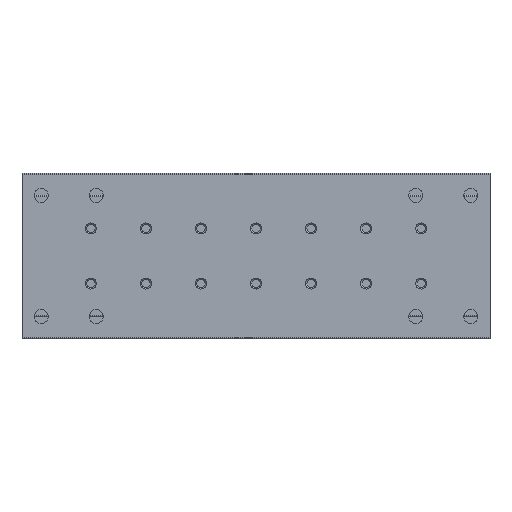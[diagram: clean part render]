
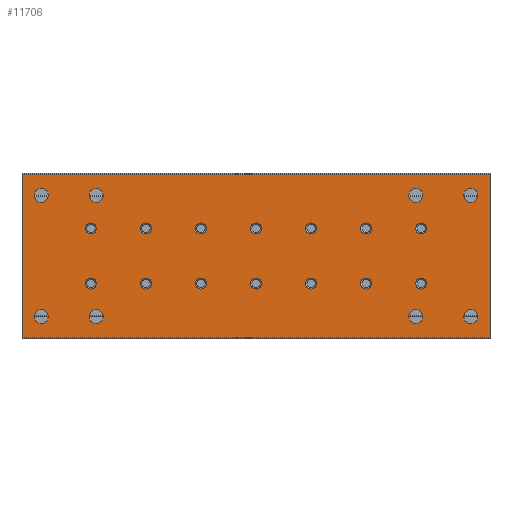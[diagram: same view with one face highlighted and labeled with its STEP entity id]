
A CAD part, front view. The second image highlights one B-rep face of the part: STEP entity #11706.
In plain terms, the highlighted planar face has unit normal (0, -1, 0).
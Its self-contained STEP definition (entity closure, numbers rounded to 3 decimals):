
#422=CIRCLE('',#12428,1.);
#423=CIRCLE('',#12429,1.);
#424=CIRCLE('',#12430,1.);
#425=CIRCLE('',#12431,1.);
#426=CIRCLE('',#12432,1.);
#427=CIRCLE('',#12433,1.);
#428=CIRCLE('',#12434,1.);
#429=CIRCLE('',#12435,1.);
#430=CIRCLE('',#12436,1.);
#431=CIRCLE('',#12437,1.);
#432=CIRCLE('',#12438,1.);
#433=CIRCLE('',#12439,1.);
#434=CIRCLE('',#12440,1.);
#435=CIRCLE('',#12441,1.);
#436=CIRCLE('',#12442,1.275);
#437=CIRCLE('',#12443,1.275);
#438=CIRCLE('',#12444,1.275);
#439=CIRCLE('',#12445,1.275);
#440=CIRCLE('',#12446,1.275);
#441=CIRCLE('',#12447,1.275);
#442=CIRCLE('',#12448,1.275);
#443=CIRCLE('',#12449,1.275);
#1234=ORIENTED_EDGE('',*,*,#4715,.F.);
#1235=ORIENTED_EDGE('',*,*,#4716,.F.);
#1236=ORIENTED_EDGE('',*,*,#4717,.F.);
#1237=ORIENTED_EDGE('',*,*,#4718,.F.);
#1238=ORIENTED_EDGE('',*,*,#4719,.F.);
#1239=ORIENTED_EDGE('',*,*,#4720,.F.);
#1240=ORIENTED_EDGE('',*,*,#4721,.F.);
#1241=ORIENTED_EDGE('',*,*,#4722,.F.);
#1242=ORIENTED_EDGE('',*,*,#4723,.F.);
#1243=ORIENTED_EDGE('',*,*,#4724,.F.);
#1244=ORIENTED_EDGE('',*,*,#4725,.F.);
#1245=ORIENTED_EDGE('',*,*,#4726,.F.);
#1246=ORIENTED_EDGE('',*,*,#4727,.F.);
#1247=ORIENTED_EDGE('',*,*,#4728,.F.);
#1248=ORIENTED_EDGE('',*,*,#4729,.F.);
#1249=ORIENTED_EDGE('',*,*,#4730,.F.);
#1250=ORIENTED_EDGE('',*,*,#4731,.F.);
#1251=ORIENTED_EDGE('',*,*,#4732,.F.);
#1252=ORIENTED_EDGE('',*,*,#4733,.T.);
#1253=ORIENTED_EDGE('',*,*,#4734,.F.);
#1254=ORIENTED_EDGE('',*,*,#4735,.F.);
#1255=ORIENTED_EDGE('',*,*,#4736,.F.);
#1256=ORIENTED_EDGE('',*,*,#4689,.T.);
#1257=ORIENTED_EDGE('',*,*,#4737,.F.);
#1258=ORIENTED_EDGE('',*,*,#4738,.F.);
#1259=ORIENTED_EDGE('',*,*,#4713,.T.);
#4689=EDGE_CURVE('',#6432,#6431,#7635,.T.);
#4713=EDGE_CURVE('',#6454,#6432,#7659,.T.);
#4715=EDGE_CURVE('',#6455,#6455,#422,.T.);
#4716=EDGE_CURVE('',#6456,#6456,#423,.T.);
#4717=EDGE_CURVE('',#6457,#6457,#424,.T.);
#4718=EDGE_CURVE('',#6458,#6458,#425,.T.);
#4719=EDGE_CURVE('',#6459,#6459,#426,.T.);
#4720=EDGE_CURVE('',#6460,#6460,#427,.T.);
#4721=EDGE_CURVE('',#6461,#6461,#428,.T.);
#4722=EDGE_CURVE('',#6462,#6462,#429,.T.);
#4723=EDGE_CURVE('',#6463,#6463,#430,.T.);
#4724=EDGE_CURVE('',#6464,#6464,#431,.T.);
#4725=EDGE_CURVE('',#6465,#6465,#432,.T.);
#4726=EDGE_CURVE('',#6466,#6466,#433,.T.);
#4727=EDGE_CURVE('',#6467,#6467,#434,.T.);
#4728=EDGE_CURVE('',#6468,#6468,#435,.T.);
#4729=EDGE_CURVE('',#6469,#6469,#436,.T.);
#4730=EDGE_CURVE('',#6470,#6470,#437,.T.);
#4731=EDGE_CURVE('',#6471,#6471,#438,.T.);
#4732=EDGE_CURVE('',#6472,#6472,#439,.T.);
#4733=EDGE_CURVE('',#6473,#6473,#440,.T.);
#4734=EDGE_CURVE('',#6474,#6474,#441,.T.);
#4735=EDGE_CURVE('',#6475,#6475,#442,.T.);
#4736=EDGE_CURVE('',#6476,#6476,#443,.T.);
#4737=EDGE_CURVE('',#6477,#6431,#7661,.T.);
#4738=EDGE_CURVE('',#6454,#6477,#7662,.T.);
#6431=VERTEX_POINT('',#17826);
#6432=VERTEX_POINT('',#17828);
#6454=VERTEX_POINT('',#17877);
#6455=VERTEX_POINT('',#17881);
#6456=VERTEX_POINT('',#17883);
#6457=VERTEX_POINT('',#17885);
#6458=VERTEX_POINT('',#17887);
#6459=VERTEX_POINT('',#17889);
#6460=VERTEX_POINT('',#17891);
#6461=VERTEX_POINT('',#17893);
#6462=VERTEX_POINT('',#17895);
#6463=VERTEX_POINT('',#17897);
#6464=VERTEX_POINT('',#17899);
#6465=VERTEX_POINT('',#17901);
#6466=VERTEX_POINT('',#17903);
#6467=VERTEX_POINT('',#17905);
#6468=VERTEX_POINT('',#17907);
#6469=VERTEX_POINT('',#17909);
#6470=VERTEX_POINT('',#17911);
#6471=VERTEX_POINT('',#17913);
#6472=VERTEX_POINT('',#17915);
#6473=VERTEX_POINT('',#17917);
#6474=VERTEX_POINT('',#17919);
#6475=VERTEX_POINT('',#17921);
#6476=VERTEX_POINT('',#17923);
#6477=VERTEX_POINT('',#17925);
#7635=LINE('',#17827,#8649);
#7659=LINE('',#17876,#8673);
#7661=LINE('',#17924,#8675);
#7662=LINE('',#17926,#8676);
#8649=VECTOR('',#13914,1000.);
#8673=VECTOR('',#13944,1000.);
#8675=VECTOR('',#13992,1000.);
#8676=VECTOR('',#13993,1000.);
#9619=EDGE_LOOP('',(#1234));
#9620=EDGE_LOOP('',(#1235));
#9621=EDGE_LOOP('',(#1236));
#9622=EDGE_LOOP('',(#1237));
#9623=EDGE_LOOP('',(#1238));
#9624=EDGE_LOOP('',(#1239));
#9625=EDGE_LOOP('',(#1240));
#9626=EDGE_LOOP('',(#1241));
#9627=EDGE_LOOP('',(#1242));
#9628=EDGE_LOOP('',(#1243));
#9629=EDGE_LOOP('',(#1244));
#9630=EDGE_LOOP('',(#1245));
#9631=EDGE_LOOP('',(#1246));
#9632=EDGE_LOOP('',(#1247));
#9633=EDGE_LOOP('',(#1248));
#9634=EDGE_LOOP('',(#1249));
#9635=EDGE_LOOP('',(#1250));
#9636=EDGE_LOOP('',(#1251));
#9637=EDGE_LOOP('',(#1252));
#9638=EDGE_LOOP('',(#1253));
#9639=EDGE_LOOP('',(#1254));
#9640=EDGE_LOOP('',(#1255));
#9641=EDGE_LOOP('',(#1256,#1257,#1258,#1259));
#10511=FACE_BOUND('',#9619,.T.);
#10512=FACE_BOUND('',#9620,.T.);
#10513=FACE_BOUND('',#9621,.T.);
#10514=FACE_BOUND('',#9622,.T.);
#10515=FACE_BOUND('',#9623,.T.);
#10516=FACE_BOUND('',#9624,.T.);
#10517=FACE_BOUND('',#9625,.T.);
#10518=FACE_BOUND('',#9626,.T.);
#10519=FACE_BOUND('',#9627,.T.);
#10520=FACE_BOUND('',#9628,.T.);
#10521=FACE_BOUND('',#9629,.T.);
#10522=FACE_BOUND('',#9630,.T.);
#10523=FACE_BOUND('',#9631,.T.);
#10524=FACE_BOUND('',#9632,.T.);
#10525=FACE_BOUND('',#9633,.T.);
#10526=FACE_BOUND('',#9634,.T.);
#10527=FACE_BOUND('',#9635,.T.);
#10528=FACE_BOUND('',#9636,.T.);
#10529=FACE_BOUND('',#9637,.T.);
#10530=FACE_BOUND('',#9638,.T.);
#10531=FACE_BOUND('',#9639,.T.);
#10532=FACE_BOUND('',#9640,.T.);
#10533=FACE_BOUND('',#9641,.T.);
#11403=PLANE('',#12427);
#11706=ADVANCED_FACE('',(#10511,#10512,#10513,#10514,#10515,#10516,#10517,
#10518,#10519,#10520,#10521,#10522,#10523,#10524,#10525,#10526,#10527,#10528,
#10529,#10530,#10531,#10532,#10533),#11403,.F.);
#12427=AXIS2_PLACEMENT_3D('',#17879,#13946,#13947);
#12428=AXIS2_PLACEMENT_3D('',#17880,#13948,#13949);
#12429=AXIS2_PLACEMENT_3D('',#17882,#13950,#13951);
#12430=AXIS2_PLACEMENT_3D('',#17884,#13952,#13953);
#12431=AXIS2_PLACEMENT_3D('',#17886,#13954,#13955);
#12432=AXIS2_PLACEMENT_3D('',#17888,#13956,#13957);
#12433=AXIS2_PLACEMENT_3D('',#17890,#13958,#13959);
#12434=AXIS2_PLACEMENT_3D('',#17892,#13960,#13961);
#12435=AXIS2_PLACEMENT_3D('',#17894,#13962,#13963);
#12436=AXIS2_PLACEMENT_3D('',#17896,#13964,#13965);
#12437=AXIS2_PLACEMENT_3D('',#17898,#13966,#13967);
#12438=AXIS2_PLACEMENT_3D('',#17900,#13968,#13969);
#12439=AXIS2_PLACEMENT_3D('',#17902,#13970,#13971);
#12440=AXIS2_PLACEMENT_3D('',#17904,#13972,#13973);
#12441=AXIS2_PLACEMENT_3D('',#17906,#13974,#13975);
#12442=AXIS2_PLACEMENT_3D('',#17908,#13976,#13977);
#12443=AXIS2_PLACEMENT_3D('',#17910,#13978,#13979);
#12444=AXIS2_PLACEMENT_3D('',#17912,#13980,#13981);
#12445=AXIS2_PLACEMENT_3D('',#17914,#13982,#13983);
#12446=AXIS2_PLACEMENT_3D('',#17916,#13984,#13985);
#12447=AXIS2_PLACEMENT_3D('',#17918,#13986,#13987);
#12448=AXIS2_PLACEMENT_3D('',#17920,#13988,#13989);
#12449=AXIS2_PLACEMENT_3D('',#17922,#13990,#13991);
#13914=DIRECTION('',(0.,0.,-1.));
#13944=DIRECTION('',(-1.,0.,0.));
#13946=DIRECTION('',(0.,1.,0.));
#13947=DIRECTION('',(0.,0.,1.));
#13948=DIRECTION('',(0.,-1.,0.));
#13949=DIRECTION('',(0.,0.,-1.));
#13950=DIRECTION('',(0.,-1.,0.));
#13951=DIRECTION('',(0.,0.,-1.));
#13952=DIRECTION('',(0.,-1.,0.));
#13953=DIRECTION('',(0.,0.,-1.));
#13954=DIRECTION('',(0.,-1.,0.));
#13955=DIRECTION('',(0.,0.,-1.));
#13956=DIRECTION('',(0.,-1.,0.));
#13957=DIRECTION('',(0.,0.,-1.));
#13958=DIRECTION('',(0.,-1.,0.));
#13959=DIRECTION('',(0.,0.,-1.));
#13960=DIRECTION('',(0.,-1.,0.));
#13961=DIRECTION('',(0.,0.,-1.));
#13962=DIRECTION('',(0.,-1.,0.));
#13963=DIRECTION('',(0.,0.,-1.));
#13964=DIRECTION('',(0.,-1.,0.));
#13965=DIRECTION('',(0.,0.,-1.));
#13966=DIRECTION('',(0.,-1.,0.));
#13967=DIRECTION('',(0.,0.,-1.));
#13968=DIRECTION('',(0.,-1.,0.));
#13969=DIRECTION('',(0.,0.,-1.));
#13970=DIRECTION('',(0.,-1.,0.));
#13971=DIRECTION('',(0.,0.,-1.));
#13972=DIRECTION('',(0.,-1.,0.));
#13973=DIRECTION('',(0.,0.,-1.));
#13974=DIRECTION('',(0.,-1.,0.));
#13975=DIRECTION('',(0.,0.,-1.));
#13976=DIRECTION('',(0.,-1.,0.));
#13977=DIRECTION('',(0.,0.,-1.));
#13978=DIRECTION('',(0.,-1.,0.));
#13979=DIRECTION('',(0.,0.,-1.));
#13980=DIRECTION('',(0.,-1.,0.));
#13981=DIRECTION('',(0.,0.,-1.));
#13982=DIRECTION('',(0.,-1.,0.));
#13983=DIRECTION('',(0.,0.,-1.));
#13984=DIRECTION('',(0.,1.,0.));
#13985=DIRECTION('',(0.,0.,1.));
#13986=DIRECTION('',(0.,-1.,0.));
#13987=DIRECTION('',(0.,0.,-1.));
#13988=DIRECTION('',(0.,-1.,0.));
#13989=DIRECTION('',(0.,0.,-1.));
#13990=DIRECTION('',(0.,-1.,0.));
#13991=DIRECTION('',(0.,0.,-1.));
#13992=DIRECTION('',(-1.,0.,0.));
#13993=DIRECTION('',(0.,0.,-1.));
#17826=CARTESIAN_POINT('',(0.,0.,-14.85));
#17827=CARTESIAN_POINT('',(0.,0.,14.85));
#17828=CARTESIAN_POINT('',(0.,0.,14.85));
#17876=CARTESIAN_POINT('',(85.,0.,14.85));
#17877=CARTESIAN_POINT('',(85.,0.,14.85));
#17879=CARTESIAN_POINT('',(85.,0.,14.85));
#17880=CARTESIAN_POINT('',(72.5,0.,-5.));
#17881=CARTESIAN_POINT('',(72.5,0.,-6.));
#17882=CARTESIAN_POINT('',(72.5,0.,5.));
#17883=CARTESIAN_POINT('',(72.5,0.,4.));
#17884=CARTESIAN_POINT('',(12.5,0.,-5.));
#17885=CARTESIAN_POINT('',(12.5,0.,-6.));
#17886=CARTESIAN_POINT('',(12.5,0.,5.));
#17887=CARTESIAN_POINT('',(12.5,0.,4.));
#17888=CARTESIAN_POINT('',(22.5,0.,-5.));
#17889=CARTESIAN_POINT('',(22.5,0.,-6.));
#17890=CARTESIAN_POINT('',(22.5,0.,5.));
#17891=CARTESIAN_POINT('',(22.5,0.,4.));
#17892=CARTESIAN_POINT('',(62.5,0.,-5.));
#17893=CARTESIAN_POINT('',(62.5,0.,-6.));
#17894=CARTESIAN_POINT('',(62.5,0.,5.));
#17895=CARTESIAN_POINT('',(62.5,0.,4.));
#17896=CARTESIAN_POINT('',(52.5,0.,-5.));
#17897=CARTESIAN_POINT('',(52.5,0.,-6.));
#17898=CARTESIAN_POINT('',(52.5,0.,5.));
#17899=CARTESIAN_POINT('',(52.5,0.,4.));
#17900=CARTESIAN_POINT('',(32.5,0.,-5.));
#17901=CARTESIAN_POINT('',(32.5,0.,-6.));
#17902=CARTESIAN_POINT('',(32.5,0.,5.));
#17903=CARTESIAN_POINT('',(32.5,0.,4.));
#17904=CARTESIAN_POINT('',(42.5,0.,-5.));
#17905=CARTESIAN_POINT('',(42.5,0.,-6.));
#17906=CARTESIAN_POINT('',(42.5,0.,5.));
#17907=CARTESIAN_POINT('',(42.5,0.,4.));
#17908=CARTESIAN_POINT('',(71.5,0.,11.));
#17909=CARTESIAN_POINT('',(71.5,0.,9.725));
#17910=CARTESIAN_POINT('',(71.5,0.,-11.));
#17911=CARTESIAN_POINT('',(71.5,0.,-12.275));
#17912=CARTESIAN_POINT('',(13.5,0.,11.));
#17913=CARTESIAN_POINT('',(13.5,0.,9.725));
#17914=CARTESIAN_POINT('',(13.5,0.,-11.));
#17915=CARTESIAN_POINT('',(13.5,0.,-12.275));
#17916=CARTESIAN_POINT('',(81.5,0.,11.));
#17917=CARTESIAN_POINT('',(81.5,0.,12.275));
#17918=CARTESIAN_POINT('',(81.5,0.,-11.));
#17919=CARTESIAN_POINT('',(81.5,0.,-12.275));
#17920=CARTESIAN_POINT('',(3.5,0.,-11.));
#17921=CARTESIAN_POINT('',(3.5,0.,-12.275));
#17922=CARTESIAN_POINT('',(3.5,0.,11.));
#17923=CARTESIAN_POINT('',(3.5,0.,9.725));
#17924=CARTESIAN_POINT('',(85.,0.,-14.85));
#17925=CARTESIAN_POINT('',(85.,0.,-14.85));
#17926=CARTESIAN_POINT('',(85.,0.,14.85));
